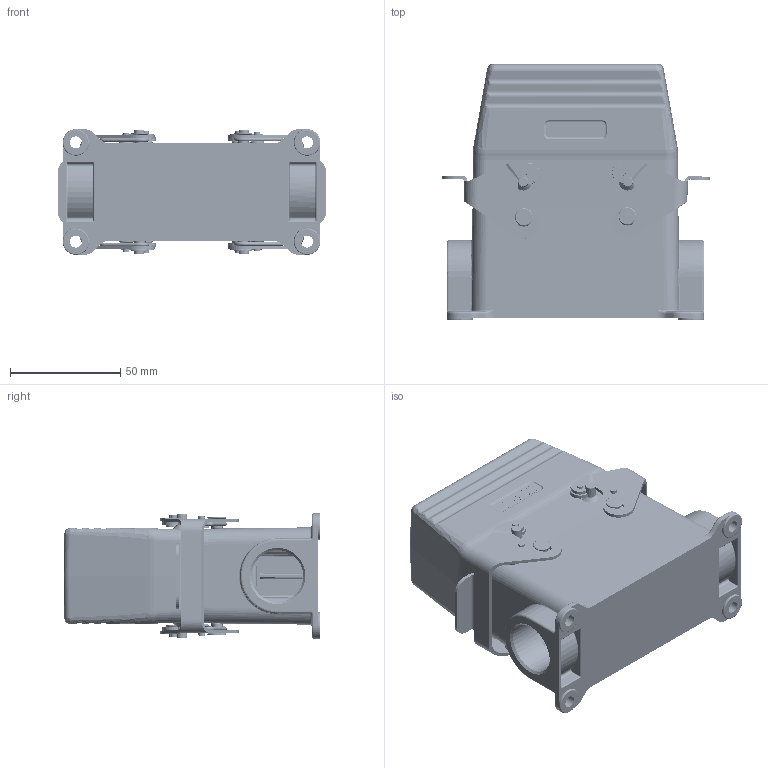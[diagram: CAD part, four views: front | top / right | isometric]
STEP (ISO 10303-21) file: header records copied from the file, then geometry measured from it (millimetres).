
FILE_DESCRIPTION (( 'STEP AP214' ), '1' );
FILE_NAME ('09016104225 HE、16针、表面底座、顶出25套件.STEP', '2024-04-28T03:02:05', ( 'L' ), ( '' ), 'SwSTEP 2.0', 'SolidWorks 2019', '' );
FILE_SCHEMA (( 'AUTOMOTIVE_DESIGN' ));
Length unit declared in the file: millimetre
Products named in the file (5): HE-016-M.stp; 09016104225 HE、16针、表面底座、顶出25套件; H16B-SGR-M25.step; HE-016-F.stp; H16B-TG-M25.step
Assembly tree (4 placements, depth 2):
  09016104225 HE、16针、表面底座、顶出25套件
    HE-016-M.stp
    HE-016-F.stp
    H16B-TG-M25.step
    H16B-SGR-M25.step
Bounding box: 121.89 x 116.6 x 57 mm (x, y, z)
Volume: 149516.2 mm3; surface area: 146738.7 mm2
Topology: 3 solids, 14 shells, 7469 faces, 20308 edges, 12886 vertices
Faces by surface type: plane 3356, bspline 1351, cylinder 1264, cone 1000, torus 420, sphere 78
Entity records: 308431 total; most frequent: CARTESIAN_POINT 112610, ORIENTED_EDGE 40140, DIRECTION 31885, EDGE_CURVE 20076, VERTEX_POINT 12854, AXIS2_PLACEMENT_3D 10952, LINE 9981, VECTOR 9981
